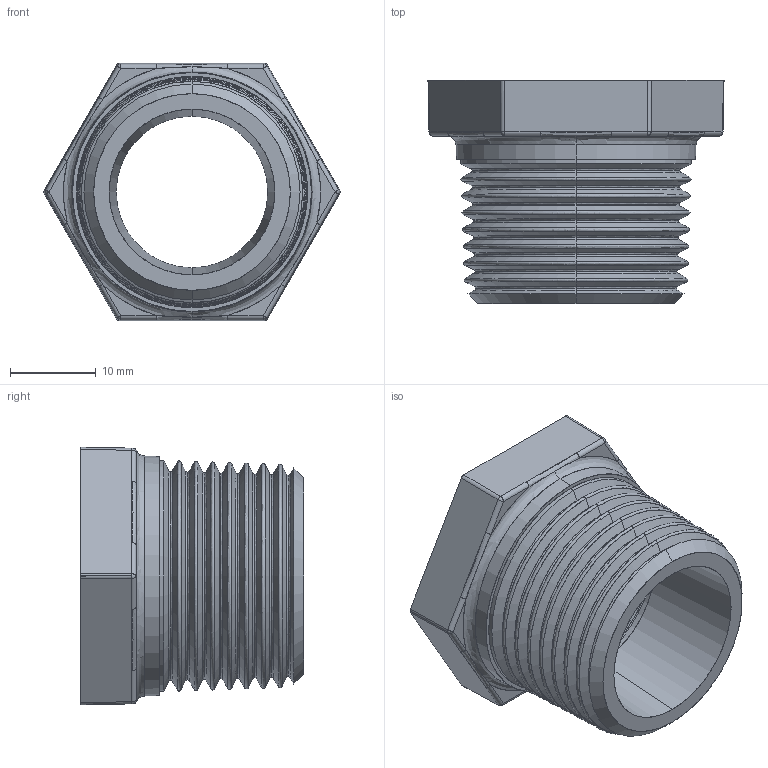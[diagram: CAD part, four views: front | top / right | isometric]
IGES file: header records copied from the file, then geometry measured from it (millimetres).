
Start section: SolidWorks IGES file using analytic representation for surfaces
Global section: file name: C:\Users\Joel Rosa\Desktop\Tubulação\12-01-OK\12-01-029.IGS; native system: SolidWorks 2011; preprocessor: SolidWorks 2011; author: Joel Rosa; date: 121203.195118; units: millimetre
Bounding box: 34.49 x 26 x 30 mm (x, y, z)
Surface area: 6057.4 mm2 (no closed solid volume)
Topology: 0 solids, 0 shells, 348 faces, 2643 edges, 2643 vertices
Faces by surface type: bspline 251, revolution 97
